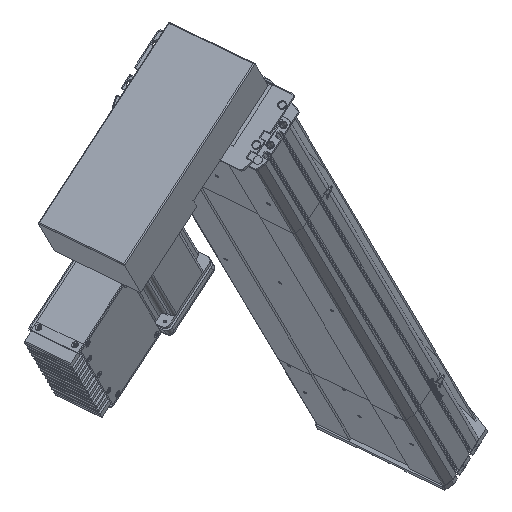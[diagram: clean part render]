
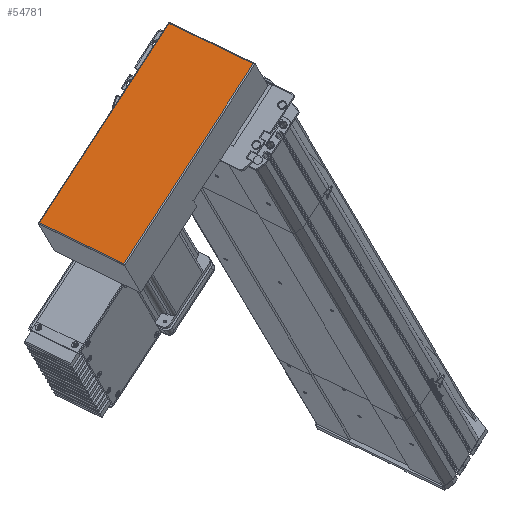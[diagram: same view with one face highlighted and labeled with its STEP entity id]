
A CAD part, top view. The second image highlights one B-rep face of the part: STEP entity #54781.
In plain terms, the highlighted planar face has unit normal (-0.256, 0.429, 0.866) as drawn and (0, 0, 1) by its records, which use the part's own axes.
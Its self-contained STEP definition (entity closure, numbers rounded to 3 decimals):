
#44317 = CARTESIAN_POINT ( 'NONE',  ( -41.95, 72.75, 44. ) ) ;
#44405 = DIRECTION ( 'NONE',  ( -1., 0., 0. ) ) ;
#44406 = VECTOR ( 'NONE', #44405, 1000. ) ;
#44407 = CARTESIAN_POINT ( 'NONE',  ( -42.95, 72.75, 44. ) ) ;
#44408 = LINE ( 'NONE', #44407, #44406 ) ;
#44452 = CARTESIAN_POINT ( 'NONE',  ( 41.95, 72.75, 44. ) ) ;
#44496 = CARTESIAN_POINT ( 'NONE',  ( -42.95, -125.25, 44. ) ) ;
#44497 = LINE ( 'NONE', #44496, #44590 ) ;
#44531 = CARTESIAN_POINT ( 'NONE',  ( 41.95, -125.25, 44. ) ) ;
#44537 = PLANE ( 'NONE',  #44629 ) ;
#44562 = DIRECTION ( 'NONE',  ( 0., 1., 0. ) ) ;
#44563 = VECTOR ( 'NONE', #44562, 1000. ) ;
#44565 = DIRECTION ( 'NONE',  ( 1., 0., 0. ) ) ;
#44566 = DIRECTION ( 'NONE',  ( 0., 0., 1. ) ) ;
#44567 = CARTESIAN_POINT ( 'NONE',  ( 41.95, -126.25, 44. ) ) ;
#44568 = LINE ( 'NONE', #44567, #44563 ) ;
#44579 = DIRECTION ( 'NONE',  ( 0., -1., 0. ) ) ;
#44581 = VECTOR ( 'NONE', #44579, 1000. ) ;
#44582 = CARTESIAN_POINT ( 'NONE',  ( -41.95, -126.25, 44. ) ) ;
#44586 = LINE ( 'NONE', #44582, #44581 ) ;
#44589 = DIRECTION ( 'NONE',  ( 1., 0., 0. ) ) ;
#44590 = VECTOR ( 'NONE', #44589, 1000. ) ;
#44629 = AXIS2_PLACEMENT_3D ( 'NONE', #44646, #44566, #44565 ) ;
#44646 = CARTESIAN_POINT ( 'NONE',  ( -42.95, -126.25, 44. ) ) ;
#44653 = CARTESIAN_POINT ( 'NONE',  ( -41.95, -125.25, 44. ) ) ;
#44655 = FACE_OUTER_BOUND ( 'NONE', #54745, .T. ) ;
#54708 = EDGE_CURVE ( 'NONE', #54732, #54717, #44408, .T. ) ;
#54717 = VERTEX_POINT ( 'NONE', #44317 ) ;
#54732 = VERTEX_POINT ( 'NONE', #44452 ) ;
#54741 = EDGE_CURVE ( 'NONE', #54777, #54776, #44497, .T. ) ;
#54743 = EDGE_CURVE ( 'NONE', #54717, #54777, #44586, .T. ) ;
#54745 = EDGE_LOOP ( 'NONE', ( #54771, #54755, #54787, #54774 ) ) ;
#54750 = EDGE_CURVE ( 'NONE', #54776, #54732, #44568, .T. ) ;
#54755 = ORIENTED_EDGE ( 'NONE', *, *, #54750, .T. ) ;
#54771 = ORIENTED_EDGE ( 'NONE', *, *, #54741, .T. ) ;
#54774 = ORIENTED_EDGE ( 'NONE', *, *, #54743, .T. ) ;
#54776 = VERTEX_POINT ( 'NONE', #44531 ) ;
#54777 = VERTEX_POINT ( 'NONE', #44653 ) ;
#54781 = ADVANCED_FACE ( 'NONE', ( #44655 ), #44537, .T. ) ;
#54787 = ORIENTED_EDGE ( 'NONE', *, *, #54708, .T. ) ;
